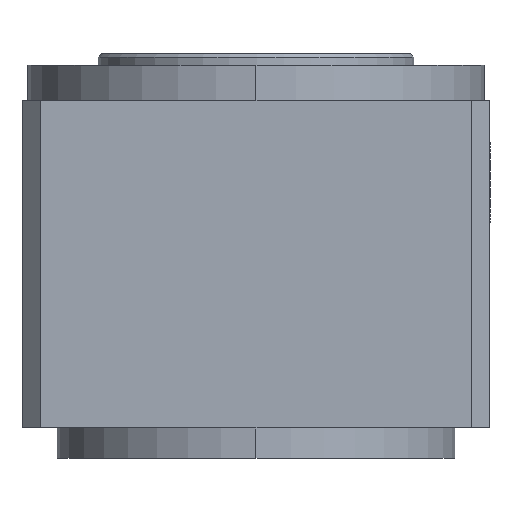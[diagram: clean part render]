
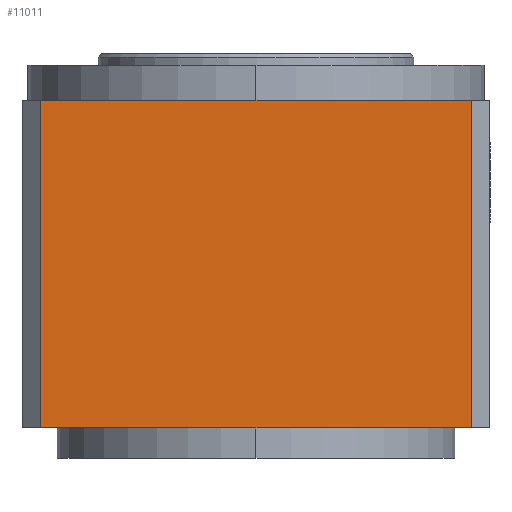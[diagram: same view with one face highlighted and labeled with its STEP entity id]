
A CAD part, left-side view. The second image highlights one B-rep face of the part: STEP entity #11011.
In plain terms, the highlighted planar face has unit normal (-1, 0, 0).
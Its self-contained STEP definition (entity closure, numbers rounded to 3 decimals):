
#126 = ORIENTED_EDGE ( 'NONE', *, *, #1844, .F. ) ;
#847 = VERTEX_POINT ( 'NONE', #3463 ) ;
#1314 = VERTEX_POINT ( 'NONE', #6469 ) ;
#1397 = CARTESIAN_POINT ( 'NONE',  ( -10., 0., 0. ) ) ;
#1632 = ORIENTED_EDGE ( 'NONE', *, *, #2234, .F. ) ;
#1844 = EDGE_CURVE ( 'NONE', #1314, #3413, #6727, .T. ) ;
#2234 = EDGE_CURVE ( 'NONE', #12284, #847, #10672, .T. ) ;
#2529 = VECTOR ( 'NONE', #7482, 1000. ) ;
#3019 = CARTESIAN_POINT ( 'NONE',  ( -10., -10., 14. ) ) ;
#3413 = VERTEX_POINT ( 'NONE', #5597 ) ;
#3463 = CARTESIAN_POINT ( 'NONE',  ( -10., 9.2, 14. ) ) ;
#4083 = PLANE ( 'NONE',  #13415 ) ;
#4128 = DIRECTION ( 'NONE',  ( 0., 0., -1. ) ) ;
#4684 = ORIENTED_EDGE ( 'NONE', *, *, #6792, .F. ) ;
#4721 = LINE ( 'NONE', #1397, #12844 ) ;
#5104 = ORIENTED_EDGE ( 'NONE', *, *, #11925, .T. ) ;
#5597 = CARTESIAN_POINT ( 'NONE',  ( -10., -9.2, 0. ) ) ;
#5874 = DIRECTION ( 'NONE',  ( 0., 1., 0. ) ) ;
#6008 = VECTOR ( 'NONE', #5874, 1000. ) ;
#6469 = CARTESIAN_POINT ( 'NONE',  ( -10., -9.2, 14. ) ) ;
#6727 = LINE ( 'NONE', #12805, #9072 ) ;
#6792 = EDGE_CURVE ( 'NONE', #3413, #12284, #4721, .T. ) ;
#7035 = FACE_OUTER_BOUND ( 'NONE', #10123, .T. ) ;
#7482 = DIRECTION ( 'NONE',  ( 0., 0., 1. ) ) ;
#8720 = LINE ( 'NONE', #10992, #6008 ) ;
#8914 = DIRECTION ( 'NONE',  ( 0., 1., 0. ) ) ;
#9072 = VECTOR ( 'NONE', #12722, 1000. ) ;
#10123 = EDGE_LOOP ( 'NONE', ( #126, #5104, #1632, #4684 ) ) ;
#10399 = DIRECTION ( 'NONE',  ( 1., 0., 0. ) ) ;
#10672 = LINE ( 'NONE', #13439, #2529 ) ;
#10992 = CARTESIAN_POINT ( 'NONE',  ( -10., 0., 14. ) ) ;
#11011 = ADVANCED_FACE ( 'NONE', ( #7035 ), #4083, .F. ) ;
#11925 = EDGE_CURVE ( 'NONE', #1314, #847, #8720, .T. ) ;
#12284 = VERTEX_POINT ( 'NONE', #12708 ) ;
#12708 = CARTESIAN_POINT ( 'NONE',  ( -10., 9.2, 0. ) ) ;
#12722 = DIRECTION ( 'NONE',  ( 0., 0., -1. ) ) ;
#12805 = CARTESIAN_POINT ( 'NONE',  ( -10., -9.2, 14. ) ) ;
#12844 = VECTOR ( 'NONE', #8914, 1000. ) ;
#13415 = AXIS2_PLACEMENT_3D ( 'NONE', #3019, #10399, #4128 ) ;
#13439 = CARTESIAN_POINT ( 'NONE',  ( -10., 9.2, 14. ) ) ;
